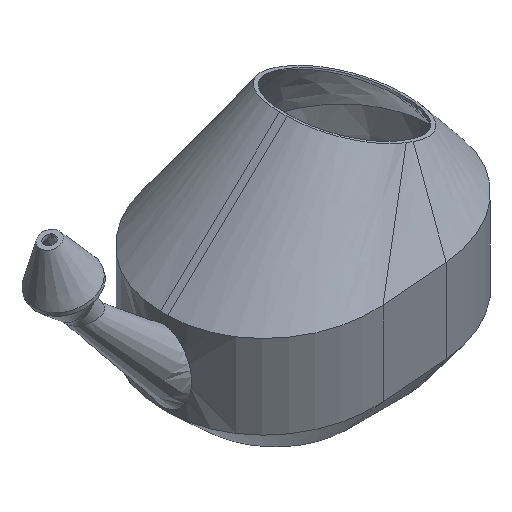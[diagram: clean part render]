
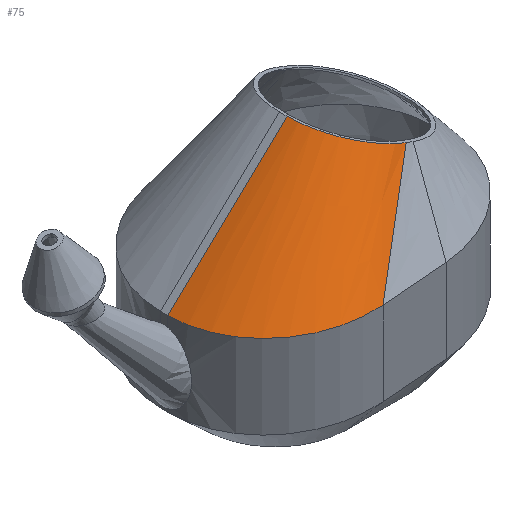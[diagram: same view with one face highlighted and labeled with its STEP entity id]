
A CAD part, isometric view. The second image highlights one B-rep face of the part: STEP entity #75.
In plain terms, the highlighted free-form (B-spline) face has degree [3, 3] with [18, 4] control points.
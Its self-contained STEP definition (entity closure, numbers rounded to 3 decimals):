
#75=ADVANCED_FACE('',(#1139),#1141,.T.);
#1139=FACE_BOUND('',#1140,.T.);
#1140=EDGE_LOOP('',(#5740,#5741,#5742,#5743));
#1141=B_SPLINE_SURFACE_WITH_KNOTS('',3,3,(
(#1142,#1143,#1144,#1145),
(#1146,#1147,#1148,#1149),
(#1150,#1151,#1152,#1153),
(#1154,#1155,#1156,#1157),
(#1158,#1159,#1160,#1161),
(#1162,#1163,#1164,#1165),
(#1166,#1167,#1168,#1169),
(#1170,#1171,#1172,#1173),
(#1174,#1175,#1176,#1177),
(#1178,#1179,#1180,#1181),
(#1182,#1183,#1184,#1185),
(#1186,#1187,#1188,#1189),
(#1190,#1191,#1192,#1193),
(#1194,#1195,#1196,#1197),
(#1198,#1199,#1200,#1201),
(#1202,#1203,#1204,#1205),
(#1206,#1207,#1208,#1209),
(#1210,#1211,#1212,#1213)),
.UNSPECIFIED.,.F.,.F.,.F.,
(4,1,1,1,1,1,1,1,1,1,1,1,1,1,1,4),
(4,4),
(0.,0.137,0.257,0.364,0.471,0.581,
0.694,0.805,0.917,1.028,1.14,
1.251,1.363,1.471,1.563,1.571),
(0.,1.),
.UNSPECIFIED.);
#1142=CARTESIAN_POINT('',(-37.462,-1.,31.628));
#1143=CARTESIAN_POINT('',(-26.771,-1.,41.743));
#1144=CARTESIAN_POINT('',(-16.08,-1.,51.857));
#1145=CARTESIAN_POINT('',(-5.389,-1.,61.971));
#1146=CARTESIAN_POINT('',(-37.462,-2.328,31.628));
#1147=CARTESIAN_POINT('',(-26.771,-2.137,41.743));
#1148=CARTESIAN_POINT('',(-16.08,-1.947,51.857));
#1149=CARTESIAN_POINT('',(-5.389,-1.756,61.971));
#1150=CARTESIAN_POINT('',(-37.291,-4.815,31.643));
#1151=CARTESIAN_POINT('',(-26.627,-4.267,41.741));
#1152=CARTESIAN_POINT('',(-15.962,-3.719,51.839));
#1153=CARTESIAN_POINT('',(-5.298,-3.17,61.937));
#1154=CARTESIAN_POINT('',(-36.603,-8.273,31.704));
#1155=CARTESIAN_POINT('',(-26.045,-7.228,41.737));
#1156=CARTESIAN_POINT('',(-15.486,-6.183,51.77));
#1157=CARTESIAN_POINT('',(-4.928,-5.138,61.803));
#1158=CARTESIAN_POINT('',(-35.619,-11.349,31.79));
#1159=CARTESIAN_POINT('',(-25.213,-9.862,41.73));
#1160=CARTESIAN_POINT('',(-14.806,-8.375,51.67));
#1161=CARTESIAN_POINT('',(-4.4,-6.888,61.611));
#1162=CARTESIAN_POINT('',(-34.353,-14.212,31.9));
#1163=CARTESIAN_POINT('',(-24.142,-12.313,41.721));
#1164=CARTESIAN_POINT('',(-13.932,-10.415,51.542));
#1165=CARTESIAN_POINT('',(-3.721,-8.517,61.363));
#1166=CARTESIAN_POINT('',(-32.757,-16.971,32.04));
#1167=CARTESIAN_POINT('',(-22.793,-14.677,41.711));
#1168=CARTESIAN_POINT('',(-12.829,-12.382,51.381));
#1169=CARTESIAN_POINT('',(-2.864,-10.087,61.052));
#1170=CARTESIAN_POINT('',(-30.84,-19.571,32.208));
#1171=CARTESIAN_POINT('',(-21.172,-16.902,41.698));
#1172=CARTESIAN_POINT('',(-11.504,-14.234,51.187));
#1173=CARTESIAN_POINT('',(-1.836,-11.566,60.677));
#1174=CARTESIAN_POINT('',(-28.633,-21.952,32.401));
#1175=CARTESIAN_POINT('',(-19.305,-18.942,41.683));
#1176=CARTESIAN_POINT('',(-9.978,-15.931,50.964));
#1177=CARTESIAN_POINT('',(-0.651,-12.921,60.246));
#1178=CARTESIAN_POINT('',(-26.185,-24.064,32.615));
#1179=CARTESIAN_POINT('',(-17.235,-20.75,41.666));
#1180=CARTESIAN_POINT('',(-8.286,-17.436,50.717));
#1181=CARTESIAN_POINT('',(0.663,-14.122,59.768));
#1182=CARTESIAN_POINT('',(-23.517,-25.889,32.849));
#1183=CARTESIAN_POINT('',(-14.979,-22.313,41.648));
#1184=CARTESIAN_POINT('',(-6.442,-18.737,50.447));
#1185=CARTESIAN_POINT('',(2.095,-15.161,59.247));
#1186=CARTESIAN_POINT('',(-20.664,-27.404,33.098));
#1187=CARTESIAN_POINT('',(-12.568,-23.61,41.629));
#1188=CARTESIAN_POINT('',(-4.471,-19.816,50.159));
#1189=CARTESIAN_POINT('',(3.626,-16.023,58.689));
#1190=CARTESIAN_POINT('',(-17.659,-28.592,33.361));
#1191=CARTESIAN_POINT('',(-10.026,-24.627,41.608));
#1192=CARTESIAN_POINT('',(-2.394,-20.663,49.855));
#1193=CARTESIAN_POINT('',(5.239,-16.699,58.102));
#1194=CARTESIAN_POINT('',(-14.578,-29.426,33.631));
#1195=CARTESIAN_POINT('',(-7.421,-25.342,41.587));
#1196=CARTESIAN_POINT('',(-0.264,-21.258,49.544));
#1197=CARTESIAN_POINT('',(6.893,-17.173,57.5));
#1198=CARTESIAN_POINT('',(-11.607,-29.888,33.89));
#1199=CARTESIAN_POINT('',(-4.909,-25.738,41.567));
#1200=CARTESIAN_POINT('',(1.789,-21.587,49.244));
#1201=CARTESIAN_POINT('',(8.487,-17.436,56.92));
#1202=CARTESIAN_POINT('',(-9.609,-29.996,34.065));
#1203=CARTESIAN_POINT('',(-3.22,-25.83,41.553));
#1204=CARTESIAN_POINT('',(3.17,-21.664,49.042));
#1205=CARTESIAN_POINT('',(9.559,-17.498,56.53));
#1206=CARTESIAN_POINT('',(-8.647,-30.,34.149));
#1207=CARTESIAN_POINT('',(-2.406,-25.833,41.547));
#1208=CARTESIAN_POINT('',(3.835,-21.667,48.944));
#1209=CARTESIAN_POINT('',(10.076,-17.5,56.342));
#1210=CARTESIAN_POINT('',(-8.572,-30.,34.156));
#1211=CARTESIAN_POINT('',(-2.343,-25.833,41.546));
#1212=CARTESIAN_POINT('',(3.886,-21.667,48.937));
#1213=CARTESIAN_POINT('',(10.116,-17.5,56.327));
#5740=ORIENTED_EDGE('',*,*,#6069,.T.);
#5741=ORIENTED_EDGE('',*,*,#6070,.T.);
#5742=ORIENTED_EDGE('',*,*,#6020,.F.);
#5743=ORIENTED_EDGE('',*,*,#6071,.F.);
#6020=EDGE_CURVE('',#6226,#6227,#6228,.T.);
#6069=EDGE_CURVE('',#6305,#6306,#6307,.T.);
#6070=EDGE_CURVE('',#6306,#6227,#6308,.T.);
#6071=EDGE_CURVE('',#6305,#6226,#6309,.T.);
#6226=VERTEX_POINT('',#6878);
#6227=VERTEX_POINT('',#6879);
#6228=CIRCLE('',#6880,16.5);
#6305=VERTEX_POINT('',#8103);
#6306=VERTEX_POINT('',#8104);
#6307=CIRCLE('',#8105,29.);
#6308=LINE('',#8109,#8110);
#6309=LINE('',#8112,#8113);
#6878=CARTESIAN_POINT('',(-5.389,-1.,61.971));
#6879=CARTESIAN_POINT('',(10.116,-17.5,56.327));
#6880=AXIS2_PLACEMENT_3D('',#6881,#6882,#6883);
#6881=CARTESIAN_POINT('',(10.116,-1.,56.327));
#6882=DIRECTION('',(0.342,0.,0.94));
#6883=DIRECTION('',(-0.94,0.,0.342));
#8103=CARTESIAN_POINT('',(-37.462,-1.,31.628));
#8104=CARTESIAN_POINT('',(-8.572,-30.,34.156));
#8105=AXIS2_PLACEMENT_3D('',#8106,#8107,#8108);
#8106=CARTESIAN_POINT('',(-8.572,-1.,34.156));
#8107=DIRECTION('',(-0.087,0.,0.996));
#8108=DIRECTION('',(-0.996,0.,-0.087));
#8109=CARTESIAN_POINT('',(-8.572,-30.,34.156));
#8110=VECTOR('',#8111,1.);
#8111=DIRECTION('',(0.592,0.396,0.702));
#8112=CARTESIAN_POINT('',(-37.462,-1.,31.628));
#8113=VECTOR('',#8114,1.);
#8114=DIRECTION('',(0.726,0.,0.687));
